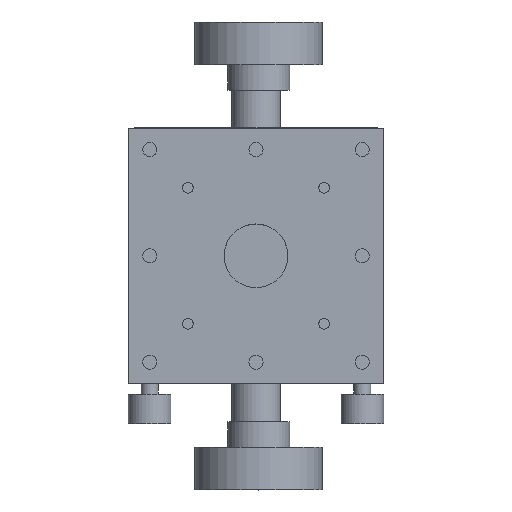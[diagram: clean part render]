
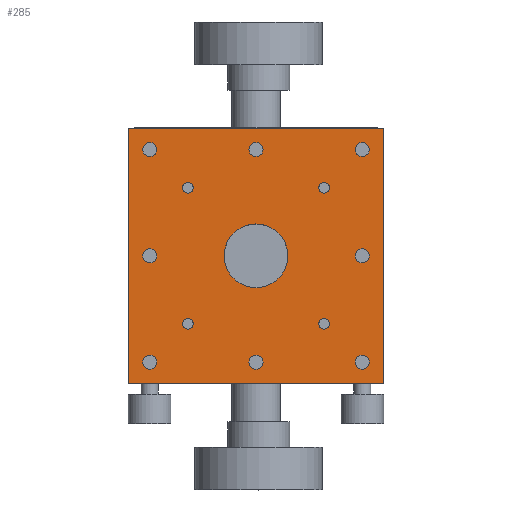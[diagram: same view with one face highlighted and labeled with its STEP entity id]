
A CAD part, top view. The second image highlights one B-rep face of the part: STEP entity #285.
In plain terms, the highlighted planar face has unit normal (0, 0, 1).
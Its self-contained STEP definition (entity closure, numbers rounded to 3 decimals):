
#285 = ADVANCED_FACE( '', ( #661, #662, #663, #664, #665, #666, #667, #668, #669, #670, #671, #672, #673, #674 ), #675, .T. );
#661 = FACE_OUTER_BOUND( '', #1144, .T. );
#662 = FACE_BOUND( '', #1145, .T. );
#663 = FACE_BOUND( '', #1146, .T. );
#664 = FACE_BOUND( '', #1147, .T. );
#665 = FACE_BOUND( '', #1148, .T. );
#666 = FACE_BOUND( '', #1149, .T. );
#667 = FACE_BOUND( '', #1150, .T. );
#668 = FACE_BOUND( '', #1151, .T. );
#669 = FACE_BOUND( '', #1152, .T. );
#670 = FACE_BOUND( '', #1153, .T. );
#671 = FACE_BOUND( '', #1154, .T. );
#672 = FACE_BOUND( '', #1155, .T. );
#673 = FACE_BOUND( '', #1156, .T. );
#674 = FACE_BOUND( '', #1157, .T. );
#675 = PLANE( '', #1158 );
#1144 = EDGE_LOOP( '', ( #1869, #1870, #1871, #1872 ) );
#1145 = EDGE_LOOP( '', ( #1873 ) );
#1146 = EDGE_LOOP( '', ( #1874 ) );
#1147 = EDGE_LOOP( '', ( #1875 ) );
#1148 = EDGE_LOOP( '', ( #1876 ) );
#1149 = EDGE_LOOP( '', ( #1877 ) );
#1150 = EDGE_LOOP( '', ( #1878 ) );
#1151 = EDGE_LOOP( '', ( #1879 ) );
#1152 = EDGE_LOOP( '', ( #1880 ) );
#1153 = EDGE_LOOP( '', ( #1881 ) );
#1154 = EDGE_LOOP( '', ( #1882 ) );
#1155 = EDGE_LOOP( '', ( #1883 ) );
#1156 = EDGE_LOOP( '', ( #1884 ) );
#1157 = EDGE_LOOP( '', ( #1885 ) );
#1158 = AXIS2_PLACEMENT_3D( '', #1886, #1887, #1888 );
#1869 = ORIENTED_EDGE( '', *, *, #2495, .F. );
#1870 = ORIENTED_EDGE( '', *, *, #2370, .T. );
#1871 = ORIENTED_EDGE( '', *, *, #2453, .F. );
#1872 = ORIENTED_EDGE( '', *, *, #2572, .F. );
#1873 = ORIENTED_EDGE( '', *, *, #2438, .T. );
#1874 = ORIENTED_EDGE( '', *, *, #2573, .T. );
#1875 = ORIENTED_EDGE( '', *, *, #2363, .T. );
#1876 = ORIENTED_EDGE( '', *, *, #2558, .T. );
#1877 = ORIENTED_EDGE( '', *, *, #2574, .T. );
#1878 = ORIENTED_EDGE( '', *, *, #2575, .T. );
#1879 = ORIENTED_EDGE( '', *, *, #2576, .T. );
#1880 = ORIENTED_EDGE( '', *, *, #2346, .T. );
#1881 = ORIENTED_EDGE( '', *, *, #2382, .T. );
#1882 = ORIENTED_EDGE( '', *, *, #2500, .T. );
#1883 = ORIENTED_EDGE( '', *, *, #2577, .T. );
#1884 = ORIENTED_EDGE( '', *, *, #2578, .T. );
#1885 = ORIENTED_EDGE( '', *, *, #2516, .T. );
#1886 = CARTESIAN_POINT( '', ( 0., 0., 33.5 ) );
#1887 = DIRECTION( '', ( 0., 0., 1. ) );
#1888 = DIRECTION( '', ( 0., -1., 0. ) );
#2346 = EDGE_CURVE( '', #2715, #2715, #2716, .T. );
#2363 = EDGE_CURVE( '', #2746, #2746, #2747, .T. );
#2370 = EDGE_CURVE( '', #2760, #2758, #2761, .T. );
#2382 = EDGE_CURVE( '', #2780, #2780, #2781, .T. );
#2438 = EDGE_CURVE( '', #2869, #2869, #2870, .T. );
#2453 = EDGE_CURVE( '', #2892, #2758, #2894, .T. );
#2495 = EDGE_CURVE( '', #2760, #2961, #2962, .T. );
#2500 = EDGE_CURVE( '', #2969, #2969, #2970, .T. );
#2516 = EDGE_CURVE( '', #2992, #2992, #2993, .T. );
#2558 = EDGE_CURVE( '', #3052, #3052, #3053, .T. );
#2572 = EDGE_CURVE( '', #2961, #2892, #3073, .T. );
#2573 = EDGE_CURVE( '', #3074, #3074, #3075, .T. );
#2574 = EDGE_CURVE( '', #3076, #3076, #3077, .T. );
#2575 = EDGE_CURVE( '', #3078, #3078, #3079, .T. );
#2576 = EDGE_CURVE( '', #3080, #3080, #3081, .T. );
#2577 = EDGE_CURVE( '', #3082, #3082, #3083, .T. );
#2578 = EDGE_CURVE( '', #3084, #3084, #3085, .T. );
#2715 = VERTEX_POINT( '', #3253 );
#2716 = CIRCLE( '', #3254, 1.25 );
#2746 = VERTEX_POINT( '', #3295 );
#2747 = CIRCLE( '', #3296, 1.65 );
#2758 = VERTEX_POINT( '', #3310 );
#2760 = VERTEX_POINT( '', #3313 );
#2761 = LINE( '', #3314, #3315 );
#2780 = VERTEX_POINT( '', #3341 );
#2781 = CIRCLE( '', #3342, 1.25 );
#2869 = VERTEX_POINT( '', #3464 );
#2870 = CIRCLE( '', #3465, 7.5 );
#2892 = VERTEX_POINT( '', #3494 );
#2894 = LINE( '', #3497, #3498 );
#2961 = VERTEX_POINT( '', #3583 );
#2962 = LINE( '', #3584, #3585 );
#2969 = VERTEX_POINT( '', #3593 );
#2970 = CIRCLE( '', #3594, 1.25 );
#2992 = VERTEX_POINT( '', #3618 );
#2993 = CIRCLE( '', #3619, 1.65 );
#3052 = VERTEX_POINT( '', #3695 );
#3053 = CIRCLE( '', #3696, 1.65 );
#3073 = LINE( '', #3720, #3721 );
#3074 = VERTEX_POINT( '', #3722 );
#3075 = CIRCLE( '', #3723, 1.65 );
#3076 = VERTEX_POINT( '', #3724 );
#3077 = CIRCLE( '', #3725, 1.65 );
#3078 = VERTEX_POINT( '', #3726 );
#3079 = CIRCLE( '', #3727, 1.65 );
#3080 = VERTEX_POINT( '', #3728 );
#3081 = CIRCLE( '', #3729, 1.65 );
#3082 = VERTEX_POINT( '', #3730 );
#3083 = CIRCLE( '', #3731, 1.25 );
#3084 = VERTEX_POINT( '', #3732 );
#3085 = CIRCLE( '', #3733, 1.65 );
#3253 = CARTESIAN_POINT( '', ( -14.75, 16., 33.5 ) );
#3254 = AXIS2_PLACEMENT_3D( '', #3949, #3950, #3951 );
#3295 = CARTESIAN_POINT( '', ( -23.35, -25., 33.5 ) );
#3296 = AXIS2_PLACEMENT_3D( '', #3972, #3973, #3974 );
#3310 = CARTESIAN_POINT( '', ( -30., 30., 33.5 ) );
#3313 = CARTESIAN_POINT( '', ( 30., 30., 33.5 ) );
#3314 = CARTESIAN_POINT( '', ( 0., 30., 33.5 ) );
#3315 = VECTOR( '', #3982, 1000. );
#3341 = CARTESIAN_POINT( '', ( 17.25, 16., 33.5 ) );
#3342 = AXIS2_PLACEMENT_3D( '', #3993, #3994, #3995 );
#3464 = CARTESIAN_POINT( '', ( 7.5, 0., 33.5 ) );
#3465 = AXIS2_PLACEMENT_3D( '', #4051, #4052, #4053 );
#3494 = CARTESIAN_POINT( '', ( -30., -30., 33.5 ) );
#3497 = CARTESIAN_POINT( '', ( -30., 0., 33.5 ) );
#3498 = VECTOR( '', #4074, 1000. );
#3583 = CARTESIAN_POINT( '', ( 30., -30., 33.5 ) );
#3584 = CARTESIAN_POINT( '', ( 30., 0., 33.5 ) );
#3585 = VECTOR( '', #4129, 1000. );
#3593 = CARTESIAN_POINT( '', ( 17.25, -16., 33.5 ) );
#3594 = AXIS2_PLACEMENT_3D( '', #4137, #4138, #4139 );
#3618 = CARTESIAN_POINT( '', ( 26.65, 0., 33.5 ) );
#3619 = AXIS2_PLACEMENT_3D( '', #4160, #4161, #4162 );
#3695 = CARTESIAN_POINT( '', ( 1.65, -25., 33.5 ) );
#3696 = AXIS2_PLACEMENT_3D( '', #4210, #4211, #4212 );
#3720 = CARTESIAN_POINT( '', ( 0., -30., 33.5 ) );
#3721 = VECTOR( '', #4229, 1000. );
#3722 = CARTESIAN_POINT( '', ( -23.35, 25., 33.5 ) );
#3723 = AXIS2_PLACEMENT_3D( '', #4230, #4231, #4232 );
#3724 = CARTESIAN_POINT( '', ( 26.65, -25., 33.5 ) );
#3725 = AXIS2_PLACEMENT_3D( '', #4233, #4234, #4235 );
#3726 = CARTESIAN_POINT( '', ( 26.65, 25., 33.5 ) );
#3727 = AXIS2_PLACEMENT_3D( '', #4236, #4237, #4238 );
#3728 = CARTESIAN_POINT( '', ( 1.65, 25., 33.5 ) );
#3729 = AXIS2_PLACEMENT_3D( '', #4239, #4240, #4241 );
#3730 = CARTESIAN_POINT( '', ( -14.75, -16., 33.5 ) );
#3731 = AXIS2_PLACEMENT_3D( '', #4242, #4243, #4244 );
#3732 = CARTESIAN_POINT( '', ( -23.35, 0., 33.5 ) );
#3733 = AXIS2_PLACEMENT_3D( '', #4245, #4246, #4247 );
#3949 = CARTESIAN_POINT( '', ( -16., 16., 33.5 ) );
#3950 = DIRECTION( '', ( 0., 0., -1. ) );
#3951 = DIRECTION( '', ( 1., 0., 0. ) );
#3972 = CARTESIAN_POINT( '', ( -25., -25., 33.5 ) );
#3973 = DIRECTION( '', ( 0., 0., -1. ) );
#3974 = DIRECTION( '', ( 1., 0., 0. ) );
#3982 = DIRECTION( '', ( -1., 0., 0. ) );
#3993 = CARTESIAN_POINT( '', ( 16., 16., 33.5 ) );
#3994 = DIRECTION( '', ( 0., 0., -1. ) );
#3995 = DIRECTION( '', ( 1., 0., 0. ) );
#4051 = CARTESIAN_POINT( '', ( 0., 0., 33.5 ) );
#4052 = DIRECTION( '', ( 0., 0., -1. ) );
#4053 = DIRECTION( '', ( 1., 0., 0. ) );
#4074 = DIRECTION( '', ( 0., 1., 0. ) );
#4129 = DIRECTION( '', ( 0., -1., 0. ) );
#4137 = CARTESIAN_POINT( '', ( 16., -16., 33.5 ) );
#4138 = DIRECTION( '', ( 0., 0., -1. ) );
#4139 = DIRECTION( '', ( 1., 0., 0. ) );
#4160 = CARTESIAN_POINT( '', ( 25., 0., 33.5 ) );
#4161 = DIRECTION( '', ( 0., 0., -1. ) );
#4162 = DIRECTION( '', ( 1., 0., 0. ) );
#4210 = CARTESIAN_POINT( '', ( 0., -25., 33.5 ) );
#4211 = DIRECTION( '', ( 0., 0., -1. ) );
#4212 = DIRECTION( '', ( 1., 0., 0. ) );
#4229 = DIRECTION( '', ( -1., 0., 0. ) );
#4230 = CARTESIAN_POINT( '', ( -25., 25., 33.5 ) );
#4231 = DIRECTION( '', ( 0., 0., -1. ) );
#4232 = DIRECTION( '', ( 1., 0., 0. ) );
#4233 = CARTESIAN_POINT( '', ( 25., -25., 33.5 ) );
#4234 = DIRECTION( '', ( 0., 0., -1. ) );
#4235 = DIRECTION( '', ( 1., 0., 0. ) );
#4236 = CARTESIAN_POINT( '', ( 25., 25., 33.5 ) );
#4237 = DIRECTION( '', ( 0., 0., -1. ) );
#4238 = DIRECTION( '', ( 1., 0., 0. ) );
#4239 = CARTESIAN_POINT( '', ( 0., 25., 33.5 ) );
#4240 = DIRECTION( '', ( 0., 0., -1. ) );
#4241 = DIRECTION( '', ( 1., 0., 0. ) );
#4242 = CARTESIAN_POINT( '', ( -16., -16., 33.5 ) );
#4243 = DIRECTION( '', ( 0., 0., -1. ) );
#4244 = DIRECTION( '', ( 1., 0., 0. ) );
#4245 = CARTESIAN_POINT( '', ( -25., 0., 33.5 ) );
#4246 = DIRECTION( '', ( 0., 0., -1. ) );
#4247 = DIRECTION( '', ( 1., 0., 0. ) );
